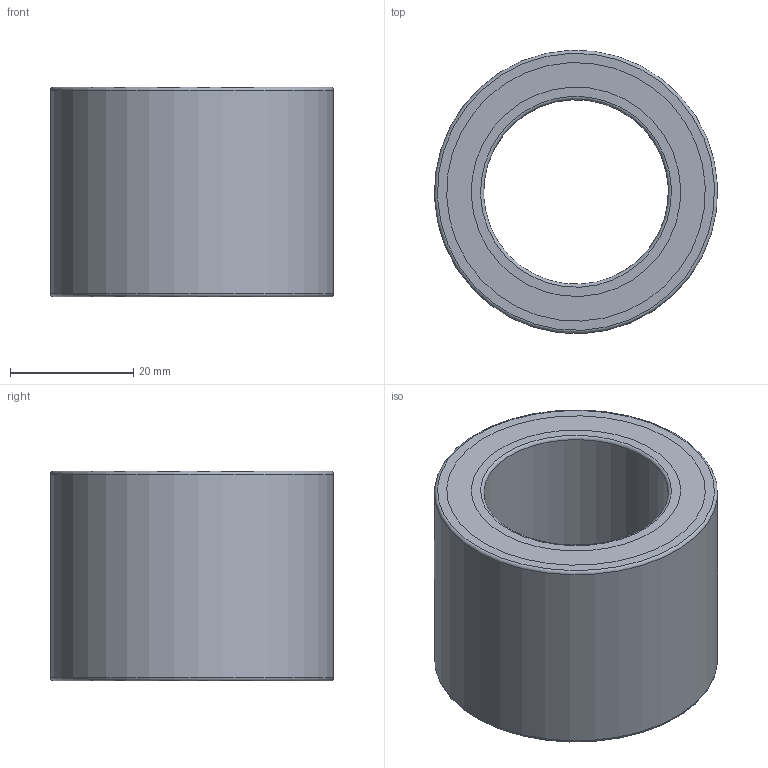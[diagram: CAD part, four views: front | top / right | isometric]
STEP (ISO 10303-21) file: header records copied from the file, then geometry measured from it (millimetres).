
FILE_DESCRIPTION(/* description */ (''),/* implementation_level */ '2;1');
FILE_NAME(/* name */ '300697 FPD 442 Z.stp',/* time_stamp */ '2016-11-17T10:39:10+01:00',/* author */ (''),/* organization */ (''),/* preprocessor_version */ 'ST-DEVELOPER v15',/* originating_system */ 'SIEMENS PLM Software NX 8.5',/* authorisation */ '');
FILE_SCHEMA (('CONFIG_CONTROL_DESIGN'));
Length unit declared in the file: millimetre
Products named in the file (3): ATE0000080_01; ATE0000078_01; ATE0000090_01
Assembly tree (2 placements, depth 2):
  ATE0000090_01
    ATE0000078_01
    ATE0000080_01
Bounding box: 45.96 x 45.96 x 34 mm (x, y, z)
Volume: 26391 mm3; surface area: 27104.5 mm2
Topology: 5 solids, 5 shells, 76 faces, 162 edges, 106 vertices
Faces by surface type: plane 46, cylinder 24, torus 6
Full cylindrical faces by diameter (mm): 30 x1, 34 x5, 38 x1, 40 x1, 41 x2, 42 x5, 46 x1
Entity records: 2212 total; most frequent: DIRECTION 358, CARTESIAN_POINT 311, ORIENTED_EDGE 264, AXIS2_PLACEMENT_3D 147, EDGE_CURVE 132, EDGE_LOOP 120, VERTEX_POINT 100, FACE_BOUND 80
